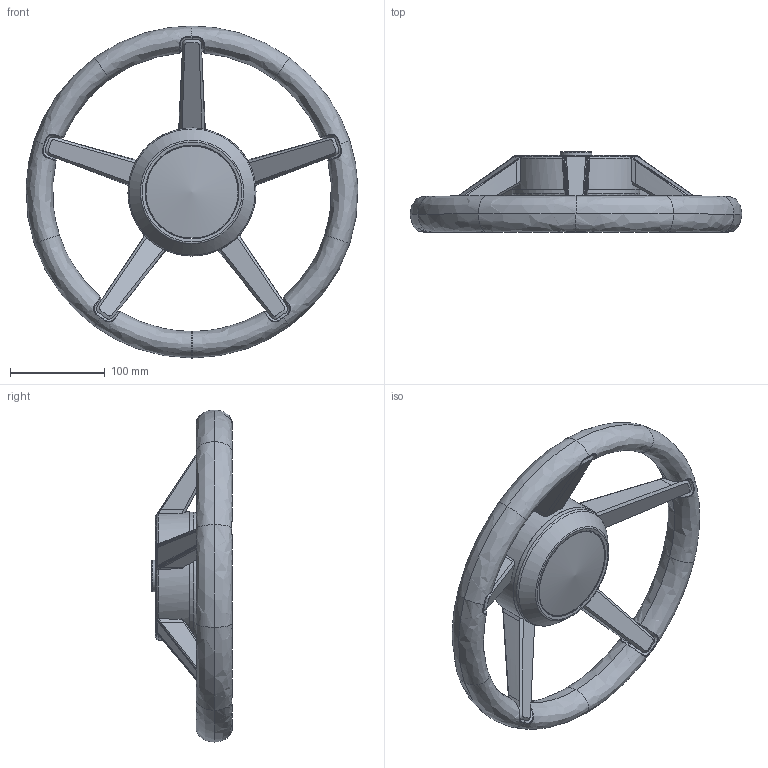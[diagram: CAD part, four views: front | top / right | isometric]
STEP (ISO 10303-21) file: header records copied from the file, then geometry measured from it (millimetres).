
FILE_DESCRIPTION(/* description */ (''),/* implementation_level */ '2;1');
FILE_NAME(/* name */ 'CBXD8E~5',/* time_stamp */ '2021-09-06T10:28:45+02:00',/* author */ (''),/* organization */ (''),/* preprocessor_version */ 'ST-DEVELOPER v16.5',/* originating_system */ '',/* authorisation */ '');
FILE_SCHEMA (('AUTOMOTIVE_DESIGN'));
Length unit declared in the file: millimetre
Products named in the file (1): Document
Bounding box: 349.89 x 85 x 350 mm (x, y, z)
Surface area: 200823.9 mm2 (no closed solid volume)
Topology: 0 solids, 19 shells, 741 faces, 1823 edges, 1094 vertices
Faces by surface type: bspline 420, cylinder 213, plane 108
Full cylindrical faces by diameter (mm): 135 x1
Entity records: 87294 total; most frequent: CARTESIAN_POINT 76665, ORIENTED_EDGE 3436, EDGE_CURVE 1823, VERTEX_POINT 1094, EDGE_LOOP 757, ADVANCED_FACE 741, FACE_OUTER_BOUND 741, B_SPLINE_CURVE_WITH_KNOTS 691
